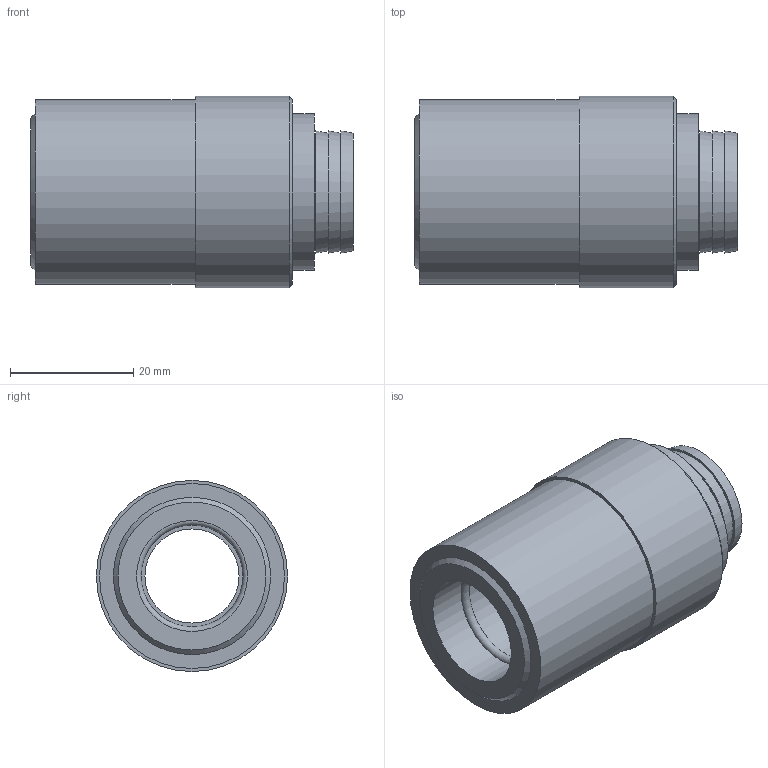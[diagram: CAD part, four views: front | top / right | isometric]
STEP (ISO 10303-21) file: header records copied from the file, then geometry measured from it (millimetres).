
FILE_DESCRIPTION(/* description */ ('STEP AP214'),/* implementation_level */ '2;1');
FILE_NAME(/* name */ 'JS-506-V',/* time_stamp */ '2024-12-19T08:40:58+01:00',/* author */ ('License CC BY-ND 4.0'),/* organization */ ('CADENAS'),/* preprocessor_version */ 'ST-DEVELOPER v19.3',/* originating_system */ 'PARTsolutions',/* authorisation */ ' ');
FILE_SCHEMA (('AUTOMOTIVE_DESIGN {1 0 10303 214 3 1 1}'));
Length unit declared in the file: inch
Products named in the file (1): JS-506-V
Bounding box: 52.32 x 30.99 x 30.99 mm (x, y, z)
Volume: 23171 mm3; surface area: 8591.8 mm2
Topology: 1 solids, 1 shells, 23 faces, 36 edges, 23 vertices
Faces by surface type: plane 10, cylinder 7, cone 5, torus 1
Full cylindrical faces by diameter (mm): 15.24 x1, 17.983 x2, 19.05 x1, 25.4 x1, 29.972 x1, 30.988 x1
Entity records: 500 total; most frequent: DIRECTION 94, CARTESIAN_POINT 70, AXIS2_PLACEMENT_3D 47, ORIENTED_EDGE 46, EDGE_LOOP 46, FACE_BOUND 46, EDGE_CURVE 23, VERTEX_POINT 23
